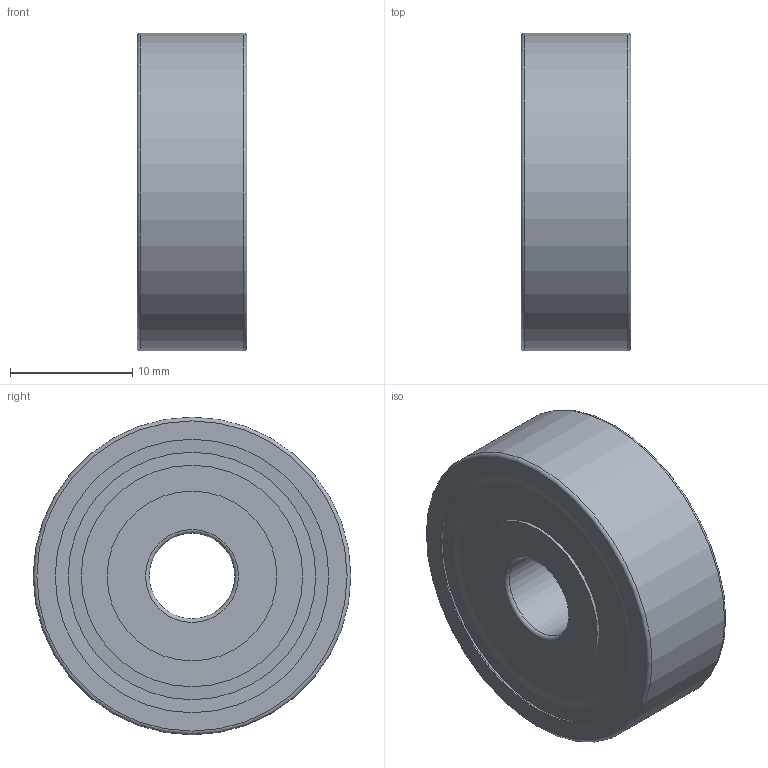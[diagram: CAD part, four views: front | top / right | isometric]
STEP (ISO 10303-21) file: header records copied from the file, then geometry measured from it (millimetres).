
FILE_DESCRIPTION(/* description */ ('STEP AP214'),/* implementation_level */ '2;1');
FILE_NAME(/* name */ 'SKF_W 637-2Z',/* time_stamp */ '2022-10-24T16:15:47+02:00',/* author */ ('License CC BY-ND 4.0'),/* organization */ ('CADENAS'),/* preprocessor_version */ 'ST-DEVELOPER v18.102',/* originating_system */ 'PARTsolutions',/* authorisation */ ' ');
FILE_SCHEMA (('FEATURE_BASED_PROCESS_PLANNING','TECHNICAL_DATA_PACKAGING','AUTOMOTIVE_DESIGN {1 0 10303 214 3 1 1}'));
Length unit declared in the file: millimetre
Products named in the file (5): SKF_W 637-2Z; SKF_W 637-2Z_PART4; SKF_W 637-2Z_PART3; SKF_W 637-2Z_PART2; SKF_W 637-2Z_PART1
Assembly tree (16 placements, depth 2):
  SKF_W 637-2Z
    SKF_W 637-2Z_PART4  x7
    SKF_W 637-2Z_PART3  x7
    SKF_W 637-2Z_PART2
    SKF_W 637-2Z_PART1
Bounding box: 9 x 26 x 26 mm (x, y, z)
Volume: 2923.3 mm3; surface area: 4040.9 mm2
Topology: 9 solids, 9 shells, 49 faces, 100 edges, 66 vertices
Faces by surface type: cylinder 14, torus 10, cone 10, plane 8, sphere 7
Full cylindrical faces by diameter (mm): 7 x1, 13.9 x4, 14.5 x2, 21.3 x2, 22.38 x4, 26 x1
Entity records: 1087 total; most frequent: DIRECTION 204, CARTESIAN_POINT 146, AXIS2_PLACEMENT_3D 102, FACE_BOUND 85, ORIENTED_EDGE 84, EDGE_LOOP 84, VERTEX_POINT 43, ADVANCED_FACE 43
